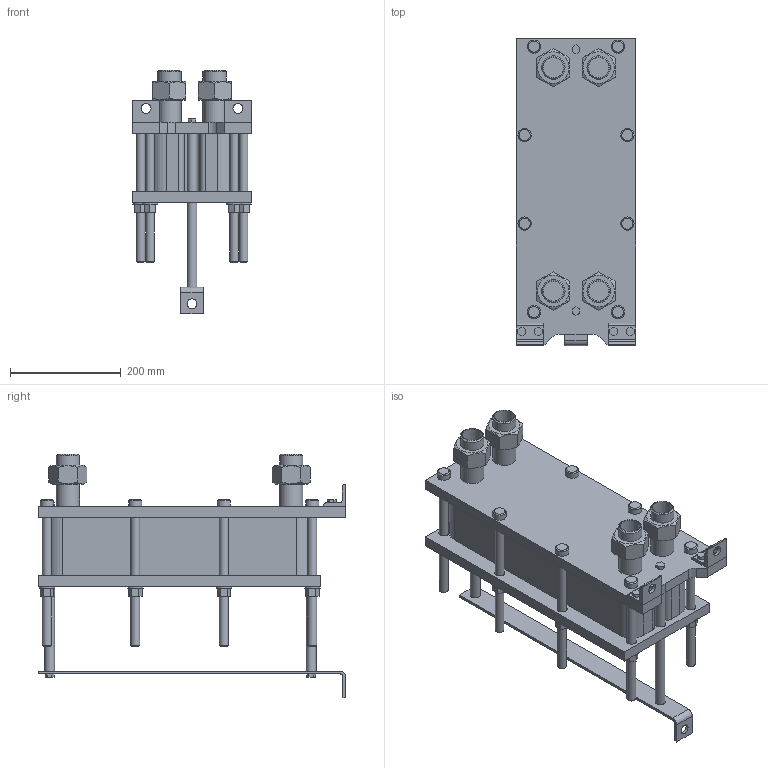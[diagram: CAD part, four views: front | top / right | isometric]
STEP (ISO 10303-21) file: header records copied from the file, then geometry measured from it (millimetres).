
FILE_DESCRIPTION(/* description */ (''),/* implementation_level */ '2;1');
FILE_NAME(/* name */ 'C:\Users\zhuro\Desktop\ENCO\TO\ЭН-004\ЭН-0,5-004-34-1.stp',/* time_stamp */ '2022-06-06T10:45:53+03:00',/* author */ ('zhuro'),/* organization */ (''),/* preprocessor_version */ 'ST-DEVELOPER v18.1',/* originating_system */ 'Autodesk Inventor 2022',/* authorisation */ '');
FILE_SCHEMA (('AUTOMOTIVE_DESIGN { 1 0 10303 214 3 1 1 }'));
Length unit declared in the file: millimetre
Products named in the file (1): ЭН-0,5-004-34-1
Bounding box: 216 x 555 x 440.2 mm (x, y, z)
Volume: 13427425.3 mm3; surface area: 1187268.6 mm2
Topology: 40 solids, 40 shells, 403 faces, 865 edges, 574 vertices
Faces by surface type: plane 272, cylinder 103, cone 28
Full cylindrical faces by diameter (mm): 10 x4, 16 x16, 18 x29, 20 x2, 24 x8, 28 x8, 36.3 x5, 42.3 x9
Entity records: 11137 total; most frequent: CARTESIAN_POINT 1939, DIRECTION 1879, ORIENTED_EDGE 1730, EDGE_CURVE 865, AXIS2_PLACEMENT_3D 658, VERTEX_POINT 574, LINE 563, VECTOR 563
